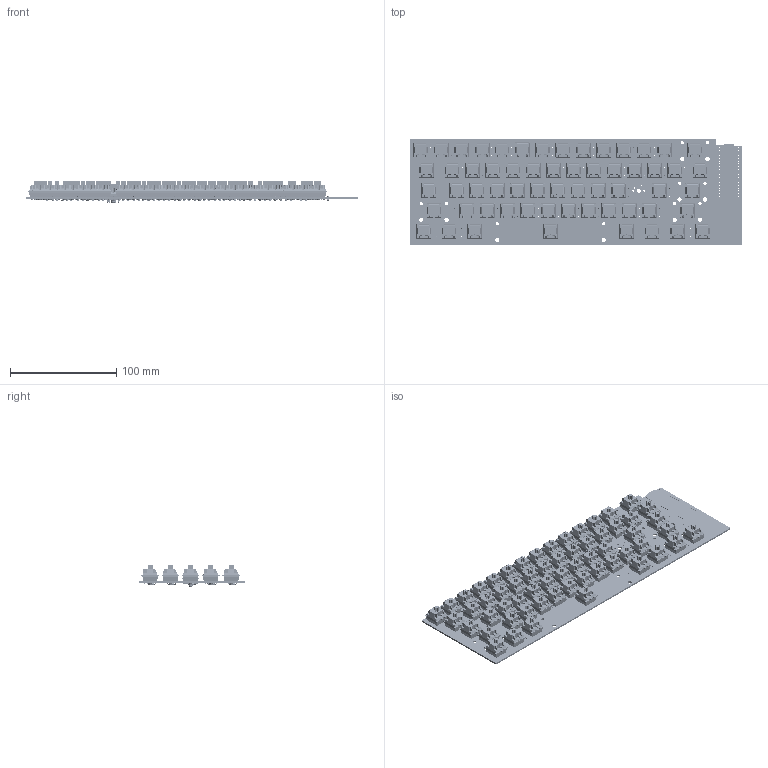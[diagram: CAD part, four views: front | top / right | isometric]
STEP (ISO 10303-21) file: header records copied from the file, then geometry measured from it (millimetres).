
FILE_DESCRIPTION(('KiCad electronic assembly'),'2;1');
FILE_NAME('TMKeyboard1.step','2025-03-08T12:55:09',('Pcbnew'),('Kicad'), 'Open CASCADE STEP processor 7.8','KiCad to STEP converter','Unknown' );
FILE_SCHEMA(('AUTOMOTIVE_DESIGN { 1 0 10303 214 1 1 1 1 }'));
Length unit declared in the file: millimetre
Products named in the file (6): TMKeyboard1 1; switch; cherry mx v28; D_DO-35_SOD27_P7.62mm_Horizontal; TMKeyboard_PCB
Assembly tree (124 placements, depth 3):
  TMKeyboard1 1
    switch  x60
      cherry mx v28
    D_DO-35_SOD27_P7.62mm_Horizontal  x61
      D_DO-35_SOD27_P7.62mm_Horizontal
    TMKeyboard_PCB
Bounding box: 312 x 99 x 20.68 mm (x, y, z)
Volume: 152555.7 mm3; surface area: 170976.4 mm2
Topology: 603 solids, 603 shells, 9213 faces, 22149 edges, 14384 vertices
Faces by surface type: plane 6678, cylinder 1991, torus 244, cone 180, sphere 120
Full cylindrical faces by diameter (mm): 0.5 x183, 0.8 x122, 1 x40, 1.5 x122, 1.6 x120, 1.7 x120, 2 x122, 2.02 x61, 3.05 x10, 3.85 x60, 4 x71
Entity records: 24568 total; most frequent: DIRECTION 4386, CARTESIAN_POINT 3833, ORIENTED_EDGE 3658, EDGE_CURVE 1829, AXIS2_PLACEMENT_3D 1798, FACE_BOUND 1616, EDGE_LOOP 1616, VERTEX_POINT 1213
